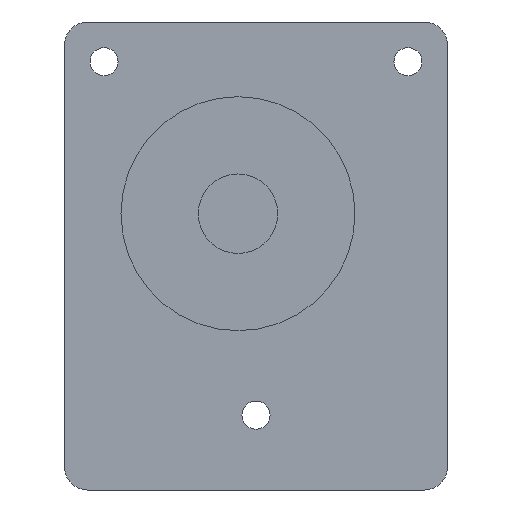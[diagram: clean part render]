
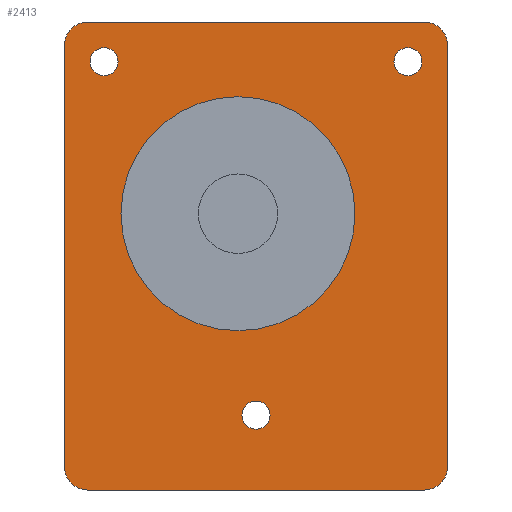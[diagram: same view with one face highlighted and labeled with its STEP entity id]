
A CAD part, front view. The second image highlights one B-rep face of the part: STEP entity #2413.
In plain terms, the highlighted planar face has unit normal (0, -1, 0).
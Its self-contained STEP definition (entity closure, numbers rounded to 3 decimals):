
#108=FACE_BOUND('',#472,.T.);
#109=FACE_BOUND('',#473,.T.);
#110=FACE_BOUND('',#474,.T.);
#111=FACE_BOUND('',#475,.T.);
#181=PLANE('',#2722);
#303=FACE_OUTER_BOUND('',#471,.T.);
#471=EDGE_LOOP('',(#2215,#2216,#2217,#2218,#2219,#2220,#2221,#2222));
#472=EDGE_LOOP('',(#2223));
#473=EDGE_LOOP('',(#2224));
#474=EDGE_LOOP('',(#2225));
#475=EDGE_LOOP('',(#2226));
#687=LINE('',#4227,#907);
#691=LINE('',#4239,#911);
#695=LINE('',#4251,#915);
#699=LINE('',#4263,#919);
#907=VECTOR('',#3374,10.);
#911=VECTOR('',#3386,10.);
#915=VECTOR('',#3398,10.);
#919=VECTOR('',#3410,10.);
#1013=CIRCLE('',#2695,1.5);
#1015=CIRCLE('',#2698,1.5);
#1017=CIRCLE('',#2701,1.5);
#1019=CIRCLE('',#2704,12.5);
#1022=CIRCLE('',#2709,2.5);
#1024=CIRCLE('',#2713,2.5);
#1026=CIRCLE('',#2717,2.5);
#1028=CIRCLE('',#2721,2.5);
#1225=VERTEX_POINT('',#4197);
#1227=VERTEX_POINT('',#4203);
#1229=VERTEX_POINT('',#4209);
#1231=VERTEX_POINT('',#4215);
#1235=VERTEX_POINT('',#4224);
#1236=VERTEX_POINT('',#4226);
#1238=VERTEX_POINT('',#4232);
#1240=VERTEX_POINT('',#4238);
#1242=VERTEX_POINT('',#4244);
#1244=VERTEX_POINT('',#4250);
#1246=VERTEX_POINT('',#4256);
#1248=VERTEX_POINT('',#4262);
#1543=EDGE_CURVE('',#1225,#1225,#1013,.T.);
#1546=EDGE_CURVE('',#1227,#1227,#1015,.T.);
#1549=EDGE_CURVE('',#1229,#1229,#1017,.T.);
#1552=EDGE_CURVE('',#1231,#1231,#1019,.T.);
#1557=EDGE_CURVE('',#1236,#1235,#687,.T.);
#1560=EDGE_CURVE('',#1238,#1236,#1022,.T.);
#1563=EDGE_CURVE('',#1240,#1238,#691,.T.);
#1566=EDGE_CURVE('',#1242,#1240,#1024,.T.);
#1569=EDGE_CURVE('',#1244,#1242,#695,.T.);
#1572=EDGE_CURVE('',#1246,#1244,#1026,.T.);
#1575=EDGE_CURVE('',#1248,#1246,#699,.T.);
#1578=EDGE_CURVE('',#1235,#1248,#1028,.T.);
#2215=ORIENTED_EDGE('',*,*,#1578,.T.);
#2216=ORIENTED_EDGE('',*,*,#1575,.T.);
#2217=ORIENTED_EDGE('',*,*,#1572,.T.);
#2218=ORIENTED_EDGE('',*,*,#1569,.T.);
#2219=ORIENTED_EDGE('',*,*,#1566,.T.);
#2220=ORIENTED_EDGE('',*,*,#1563,.T.);
#2221=ORIENTED_EDGE('',*,*,#1560,.T.);
#2222=ORIENTED_EDGE('',*,*,#1557,.T.);
#2223=ORIENTED_EDGE('',*,*,#1552,.T.);
#2224=ORIENTED_EDGE('',*,*,#1549,.T.);
#2225=ORIENTED_EDGE('',*,*,#1546,.T.);
#2226=ORIENTED_EDGE('',*,*,#1543,.T.);
#2413=ADVANCED_FACE('',(#303,#108,#109,#110,#111),#181,.T.);
#2695=AXIS2_PLACEMENT_3D('',#4198,#3344,#3345);
#2698=AXIS2_PLACEMENT_3D('',#4204,#3351,#3352);
#2701=AXIS2_PLACEMENT_3D('',#4210,#3358,#3359);
#2704=AXIS2_PLACEMENT_3D('',#4216,#3365,#3366);
#2709=AXIS2_PLACEMENT_3D('',#4233,#3380,#3381);
#2713=AXIS2_PLACEMENT_3D('',#4245,#3392,#3393);
#2717=AXIS2_PLACEMENT_3D('',#4257,#3404,#3405);
#2721=AXIS2_PLACEMENT_3D('',#4267,#3416,#3417);
#2722=AXIS2_PLACEMENT_3D('',#4268,#3418,#3419);
#3344=DIRECTION('center_axis',(0.,1.,0.));
#3345=DIRECTION('ref_axis',(1.,0.,0.));
#3351=DIRECTION('center_axis',(0.,1.,0.));
#3352=DIRECTION('ref_axis',(1.,0.,0.));
#3358=DIRECTION('center_axis',(0.,1.,0.));
#3359=DIRECTION('ref_axis',(1.,0.,0.));
#3365=DIRECTION('center_axis',(0.,1.,0.));
#3366=DIRECTION('ref_axis',(1.,0.,0.));
#3374=DIRECTION('',(0.,0.,1.));
#3380=DIRECTION('center_axis',(0.,-1.,0.));
#3381=DIRECTION('ref_axis',(0.,0.,-1.));
#3386=DIRECTION('',(1.,0.,0.));
#3392=DIRECTION('center_axis',(0.,-1.,0.));
#3393=DIRECTION('ref_axis',(-1.,0.,0.));
#3398=DIRECTION('',(0.,0.,-1.));
#3404=DIRECTION('center_axis',(0.,-1.,0.));
#3405=DIRECTION('ref_axis',(0.,0.,1.));
#3410=DIRECTION('',(-1.,0.,0.));
#3416=DIRECTION('center_axis',(0.,-1.,0.));
#3417=DIRECTION('ref_axis',(1.,0.,0.));
#3418=DIRECTION('center_axis',(0.,-1.,0.));
#3419=DIRECTION('ref_axis',(1.,0.,0.));
#4197=CARTESIAN_POINT('',(-15.807,-10.,16.237));
#4198=CARTESIAN_POINT('Origin',(-14.307,-10.,16.237));
#4203=CARTESIAN_POINT('',(16.657,-10.,16.237));
#4204=CARTESIAN_POINT('Origin',(18.157,-10.,16.237));
#4209=CARTESIAN_POINT('',(0.425,-10.,-21.52));
#4210=CARTESIAN_POINT('Origin',(1.925,-10.,-21.52));
#4215=CARTESIAN_POINT('',(-12.5,-10.,0.));
#4216=CARTESIAN_POINT('Origin',(0.,-10.,0.));
#4224=CARTESIAN_POINT('',(22.4,-10.,17.98));
#4226=CARTESIAN_POINT('',(22.4,-10.,-27.02));
#4227=CARTESIAN_POINT('',(22.4,-10.,-27.02));
#4232=CARTESIAN_POINT('',(19.9,-10.,-29.52));
#4233=CARTESIAN_POINT('Origin',(19.9,-10.,-27.02));
#4238=CARTESIAN_POINT('',(-16.05,-10.,-29.52));
#4239=CARTESIAN_POINT('',(-16.05,-10.,-29.52));
#4244=CARTESIAN_POINT('',(-18.55,-10.,-27.02));
#4245=CARTESIAN_POINT('Origin',(-16.05,-10.,-27.02));
#4250=CARTESIAN_POINT('',(-18.55,-10.,17.98));
#4251=CARTESIAN_POINT('',(-18.55,-10.,17.98));
#4256=CARTESIAN_POINT('',(-16.05,-10.,20.48));
#4257=CARTESIAN_POINT('Origin',(-16.05,-10.,17.98));
#4262=CARTESIAN_POINT('',(19.9,-10.,20.48));
#4263=CARTESIAN_POINT('',(19.9,-10.,20.48));
#4267=CARTESIAN_POINT('Origin',(19.9,-10.,17.98));
#4268=CARTESIAN_POINT('Origin',(1.925,-10.,-4.52));
